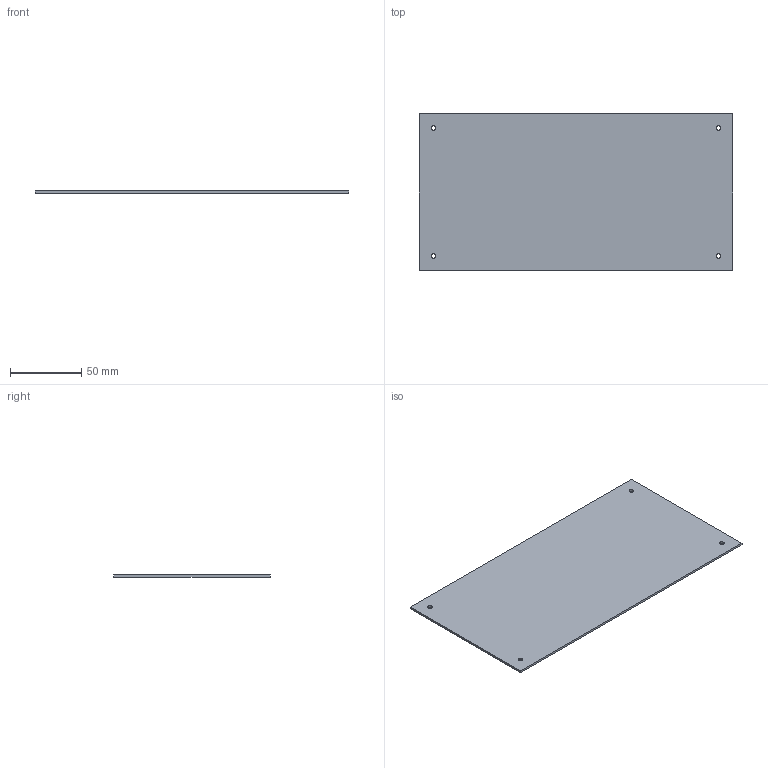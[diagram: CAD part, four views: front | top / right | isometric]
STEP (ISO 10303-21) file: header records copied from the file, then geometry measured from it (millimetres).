
FILE_DESCRIPTION(('KiCad electronic assembly'),'2;1');
FILE_NAME('board.step','2026-08-09T14:46:47',('Pcbnew'),('Kicad'), 'Open CASCADE STEP processor 7.9','KiCad to STEP converter','Unknown' );
FILE_SCHEMA(('AUTOMOTIVE_DESIGN { 1 0 10303 214 1 1 1 1 }'));
Length unit declared in the file: millimetre
Products named in the file (2): board 1; handheld_hybrid_PCB
Assembly tree (1 placements, depth 2):
  board 1
    handheld_hybrid_PCB
Bounding box: 220 x 110 x 1.51 mm (x, y, z)
Volume: 36493.4 mm3; surface area: 49393 mm2
Topology: 1 solids, 1 shells, 10 faces, 24 edges, 16 vertices
Faces by surface type: plane 6, cylinder 4
Full cylindrical faces by diameter (mm): 3.2 x4
Entity records: 349 total; most frequent: DIRECTION 56, CARTESIAN_POINT 52, ORIENTED_EDGE 48, EDGE_CURVE 24, AXIS2_PLACEMENT_3D 20, FACE_BOUND 18, EDGE_LOOP 18, VERTEX_POINT 16
